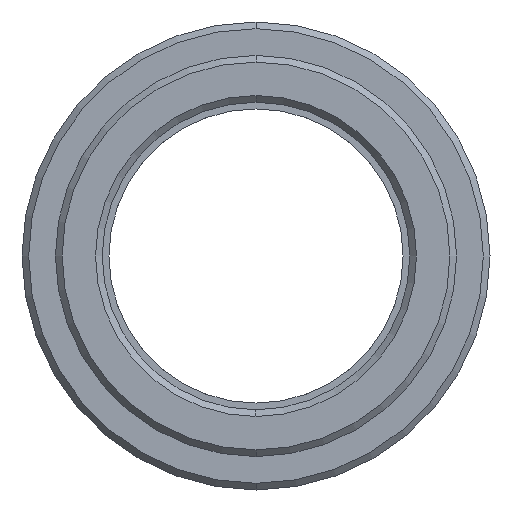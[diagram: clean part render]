
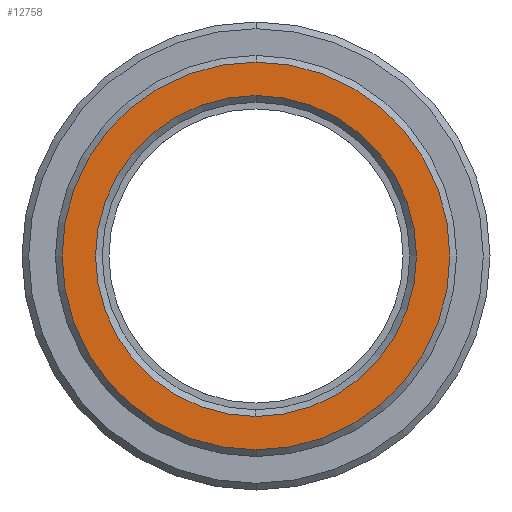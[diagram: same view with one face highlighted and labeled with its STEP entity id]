
A CAD part, left-side view. The second image highlights one B-rep face of the part: STEP entity #12758.
In plain terms, the highlighted planar face has unit normal (-1, 0, 0).
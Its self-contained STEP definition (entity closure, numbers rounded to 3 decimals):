
#5050=CARTESIAN_POINT('',(-8.,0.,0.));
#5051=DIRECTION('',(1.,0.,0.));
#5052=DIRECTION('',(0.,0.,-1.));
#5053=AXIS2_PLACEMENT_3D('',#5050,#5051,#5052);
#5055=CARTESIAN_POINT('',(-8.,0.,
0.));
#5056=DIRECTION('',(1.,0.,0.));
#5057=DIRECTION('',(0.,0.,1.));
#5058=AXIS2_PLACEMENT_3D('',#5055,#5056,#5057);
#5060=CARTESIAN_POINT('',(-8.,0.,
0.));
#5061=DIRECTION('',(1.,0.,0.));
#5062=DIRECTION('',(0.,0.,1.));
#5063=AXIS2_PLACEMENT_3D('',#5060,#5061,#5062);
#5065=CARTESIAN_POINT('',(-8.,0.,0.));
#5066=DIRECTION('',(1.,0.,0.));
#5067=DIRECTION('',(0.,0.,-1.));
#5068=AXIS2_PLACEMENT_3D('',#5065,#5066,#5067);
#10760=CARTESIAN_POINT('',(-8.,0.,12.));
#10761=CARTESIAN_POINT('',(-8.,0.,-12.));
#10762=VERTEX_POINT('',#10760);
#10763=VERTEX_POINT('',#10761);
#10768=CARTESIAN_POINT('',(-8.,0.,-14.5));
#10769=CARTESIAN_POINT('',(-8.,0.,14.5));
#10770=VERTEX_POINT('',#10768);
#10771=VERTEX_POINT('',#10769);
#12742=CARTESIAN_POINT('',(-8.,0.,0.));
#12743=DIRECTION('',(1.,0.,0.));
#12744=DIRECTION('',(0.,0.,1.));
#12745=AXIS2_PLACEMENT_3D('',#12742,#12743,#12744);
#12746=PLANE('',#12745);
#12748=ORIENTED_EDGE('',*,*,#12747,.T.);
#12750=ORIENTED_EDGE('',*,*,#12749,.T.);
#12751=EDGE_LOOP('',(#12748,#12750));
#12752=FACE_OUTER_BOUND('',#12751,.F.);
#12753=ORIENTED_EDGE('',*,*,#12732,.F.);
#12755=ORIENTED_EDGE('',*,*,#12754,.F.);
#12756=EDGE_LOOP('',(#12753,#12755));
#12757=FACE_BOUND('',#12756,.F.);
#12758=ADVANCED_FACE('',(#12752,#12757),#12746,.F.);
#5054=CIRCLE('',#5053,14.5);
#5059=CIRCLE('',#5058,14.5);
#5064=CIRCLE('',#5063,12.);
#5069=CIRCLE('',#5068,12.);
#12732=EDGE_CURVE('',#10762,#10763,#5064,.T.);
#12747=EDGE_CURVE('',#10770,#10771,#5054,.T.);
#12749=EDGE_CURVE('',#10771,#10770,#5059,.T.);
#12754=EDGE_CURVE('',#10763,#10762,#5069,.T.);
